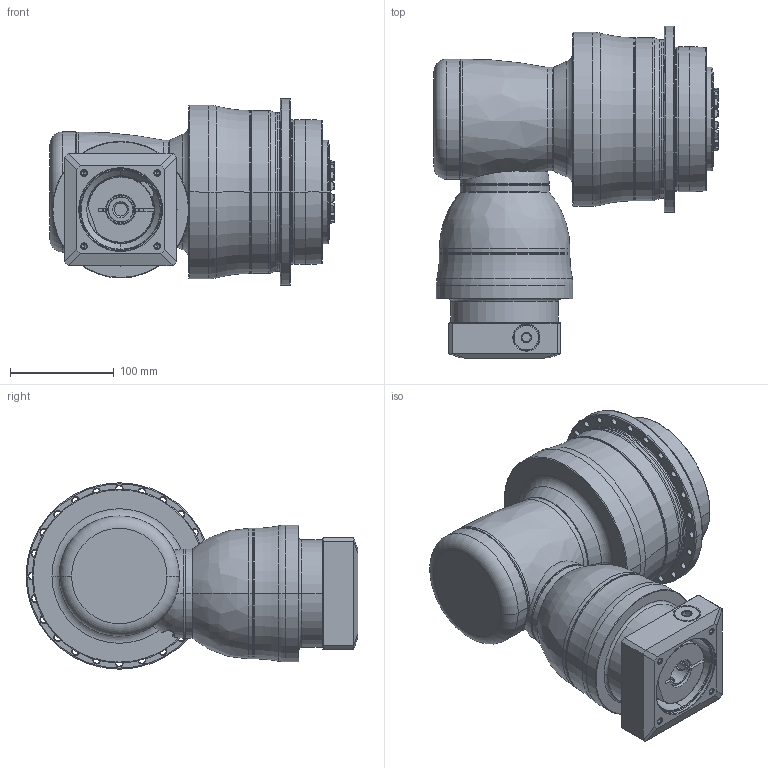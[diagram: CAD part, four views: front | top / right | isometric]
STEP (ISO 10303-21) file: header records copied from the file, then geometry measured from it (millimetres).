
FILE_DESCRIPTION((''),'2;1');
FILE_NAME('APCK140_4ST_24-P0409510201_ASM','2018-05-15T',('d01226'),(''),'PRO/ENGINEER BY PARAMETRIC TECHNOLOGY CORPORATION, 2008410','PRO/ENGINEER BY PARAMETRIC TECHNOLOGY CORPORATION, 2008410','');
FILE_SCHEMA(('CONFIG_CONTROL_DESIGN'));
Length unit declared in the file: millimetre
Products named in the file (13): P1008400002; P1832500001; P0278501003; P03595D0103; P1211500001; P1315400001; P1007401001; P1317410201; P0409510201; P0503500010; P0912353001; 21711418017; APCK140_4ST_24-P0409510201_ASM
Assembly tree (12 placements, depth 2):
  APCK140_4ST_24-P0409510201_ASM
    P1008400002
    P1832500001
    P0278501003
    P03595D0103
    P1211500001
    P1315400001
    P1007401001
    P1317410201
    P0409510201
    P0503500010
    P0912353001
    21711418017
Bounding box: 274.4 x 320.5 x 180 mm (x, y, z)
Volume: 5358268.1 mm3; surface area: 546893.3 mm2
Topology: 13 solids, 23 shells, 729 faces, 1718 edges, 1045 vertices
Faces by surface type: cylinder 222, cone 221, plane 132, torus 116, bspline 36, sphere 2
Entity records: 27970 total; most frequent: CARTESIAN_POINT 10775, DIRECTION 3831, ORIENTED_EDGE 3366, EDGE_CURVE 1704, AXIS2_PLACEMENT_3D 1678, VERTEX_POINT 1045, CIRCLE 950, EDGE_LOOP 837
